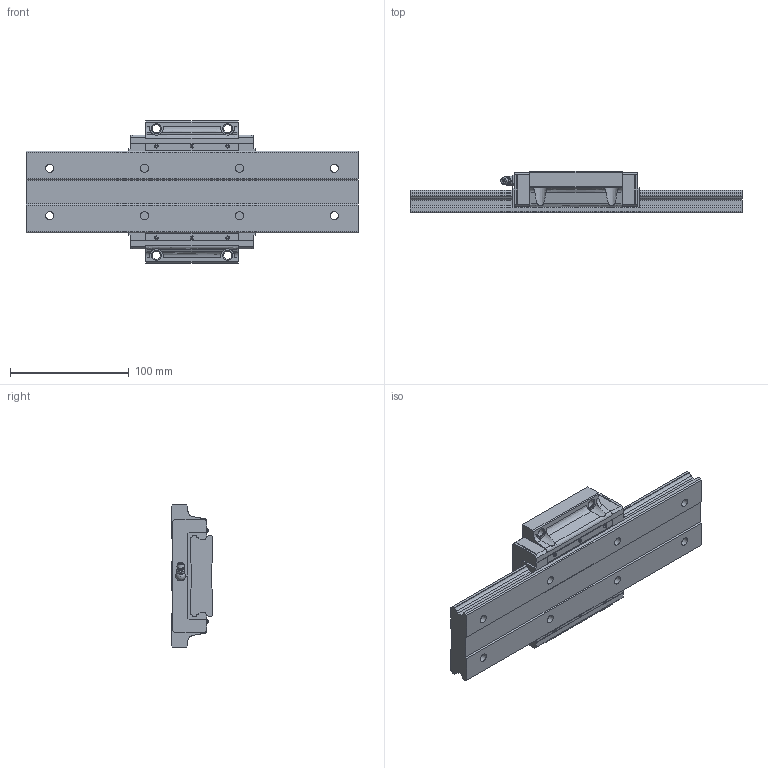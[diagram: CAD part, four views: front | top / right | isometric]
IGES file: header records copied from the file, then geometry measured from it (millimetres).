
Start section: Data from Parasolid IGES Translator 26.0.171, Copyright(c) 2006 Siemens PLM Software. All Rights Reserved.
Global section: file name: HRW35CA1SS-280L_G20_0_B-M6F_86-7_0_0_0_1.igs; native system: By Siemens PLM Incorporated; preprocessor: XPlus GENERIC/IGES 26.0.171; author: Noname; organization: Noname; date: 20240521.094918; units: millimetre
Bounding box: 280 x 35 x 120 mm (x, y, z)
Surface area: 98126.2 mm2 (no closed solid volume)
Topology: 0 solids, 0 shells, 281 faces, 1508 edges, 1425 vertices
Faces by surface type: extrusion 186, revolution 95
